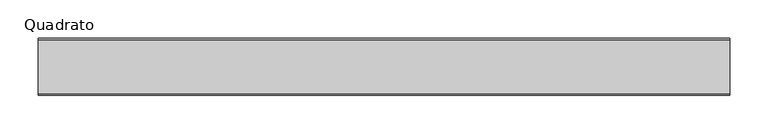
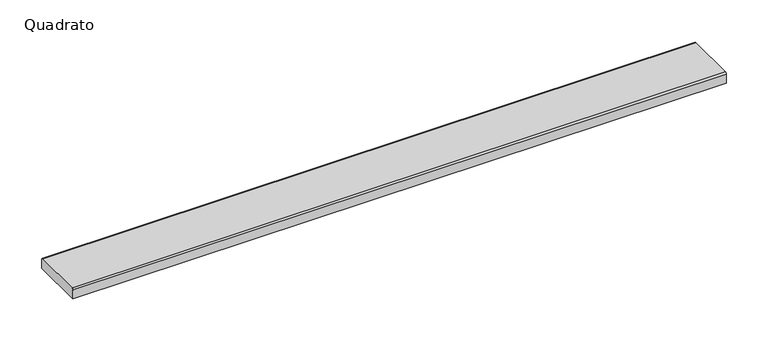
"""IFC4 building model written with IfcOpenShell, lengths in millimetres: sanitary terminal geometry, ZZZ_do not use_PF_ST_grating for showerdrain e_Aco : Quadrato."""

from ifc_helpers import new_model, si_unit, point, frame, frame_2d, origin, place, context, project, spatial, polyline, circle_curve, trimmed, segment, composite_curve, outline, extrude, source, transform, mapped, element, save


def quadrato_88da67b6(model_context):
    return source(origin(), model_context, "Body", "SweptSolid", [
        extrude(outline(composite_curve([segment(polyline([(37.0, -15.0), (-37.0, -15.0), (-37.0, -1.977849)]), True, "CONTINUOUS"), segment(trimmed(circle_curve(frame_2d((-35.022151, -1.977849)), 1.977849), [point((-37.0, -1.977849))], [point((-35.022151, 0.0))], False, "CARTESIAN"), True, "CONTINUOUS"), segment(polyline([(-35.022151, 0.0), (35.022151, 0.0)]), True, "CONTINUOUS"), segment(trimmed(circle_curve(frame_2d((35.022151, -1.977849)), 1.977849), [point((35.022151, 0.0))], [point((37.0, -1.977849))], False, "CARTESIAN"), True, "CONTINUOUS"), segment(polyline([(37.0, -1.977849), (37.0, -15.0)]), True, "CONTINUOUS")], self_intersect=False)), frame((-450.0, 0.0, 0.0), z_axis=(1.0, 0.0, 0.0), x_axis=(0.0, 1.0, 0.0)), (0.0, 0.0, 1.0), 900.0),
    ])


if __name__ == "__main__":
    model = new_model("IFC4")
    model_context = context("Model", 3, world=origin())
    ifc_project = project(units=[si_unit("LENGTHUNIT", "METRE", prefix="MILLI")], contexts=[model_context])
    site = spatial("IfcSite", under=ifc_project)
    building = spatial("IfcBuilding", under=site)
    placement = place(None, origin())
    quadrato_shape = quadrato_88da67b6(model_context)
    element("IfcSanitaryTerminal", 1, ObjectType="ZZZ_do not use_PF_ST_grating for showerdrain e_Aco : Quadrato", at=placement, inside=building, context=model_context, shape_type="MappedRepresentation", body=[
        mapped(quadrato_shape, transform((0.0, 0.0, 0.0), x_axis=(1.0, 0.0, 0.0), y_axis=(0.0, 1.0, 0.0), z_axis=(0.0, 0.0, 1.0))),
    ])
    save(model, "model.ifc")
